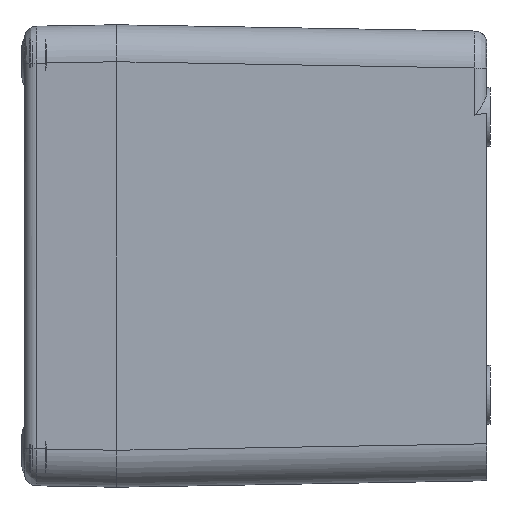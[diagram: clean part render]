
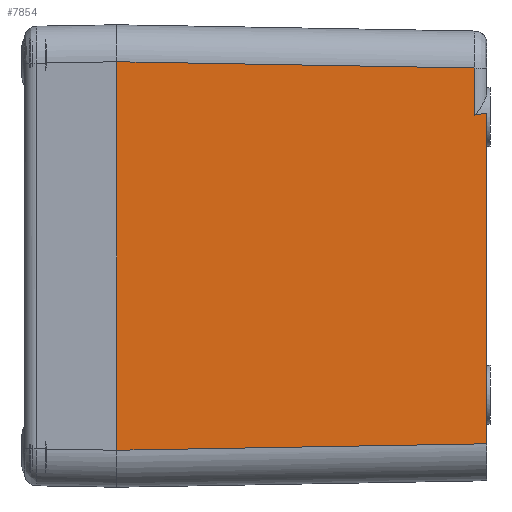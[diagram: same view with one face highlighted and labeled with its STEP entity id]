
A CAD part, left-side view. The second image highlights one B-rep face of the part: STEP entity #7854.
In plain terms, the highlighted planar face has unit normal (-1, -0.018, 0).
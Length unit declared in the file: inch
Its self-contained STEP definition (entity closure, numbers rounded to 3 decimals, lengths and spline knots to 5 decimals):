
#32 = AXIS2_PLACEMENT_3D ( 'NONE', #5261, #5250, #5249 ) ;
#707 = FACE_OUTER_BOUND ( 'NONE', #1563, .T. ) ;
#1563 = EDGE_LOOP ( 'NONE', ( #2058, #2057, #2056, #2055, #2054, #3398, #3413, #3416, #3415 ) ) ;
#2054 = ORIENTED_EDGE ( 'NONE', *, *, #11671, .T. ) ;
#2055 = ORIENTED_EDGE ( 'NONE', *, *, #11637, .T. ) ;
#2056 = ORIENTED_EDGE ( 'NONE', *, *, #11654, .T. ) ;
#2057 = ORIENTED_EDGE ( 'NONE', *, *, #11676, .F. ) ;
#2058 = ORIENTED_EDGE ( 'NONE', *, *, #11677, .F. ) ;
#2771 = DIRECTION ( 'NONE',  ( -0.017, 1., 0.017 ) ) ;
#2773 = CARTESIAN_POINT ( 'NONE',  ( -3.70028, -2.28484, 1.20031 ) ) ;
#2778 = DIRECTION ( 'NONE',  ( 0., 0., 1. ) ) ;
#2779 = CARTESIAN_POINT ( 'NONE',  ( -3.69893, -2.3622, -1.61653 ) ) ;
#2788 = DIRECTION ( 'NONE',  ( 0., 0., 1. ) ) ;
#2789 = CARTESIAN_POINT ( 'NONE',  ( -3.69893, -2.3622, -1.61653 ) ) ;
#2848 = DIRECTION ( 'NONE',  ( 0., 0., -1. ) ) ;
#2849 = CARTESIAN_POINT ( 'NONE',  ( -3.74016, 0., -1.61653 ) ) ;
#3398 = ORIENTED_EDGE ( 'NONE', *, *, #11678, .T. ) ;
#3413 = ORIENTED_EDGE ( 'NONE', *, *, #11649, .T. ) ;
#3415 = ORIENTED_EDGE ( 'NONE', *, *, #11652, .T. ) ;
#3416 = ORIENTED_EDGE ( 'NONE', *, *, #11673, .T. ) ;
#5249 = DIRECTION ( 'NONE',  ( 0.017, -1., 0. ) ) ;
#5250 = DIRECTION ( 'NONE',  ( -1., -0.017, 0. ) ) ;
#5254 = PLANE ( 'NONE',  #32 ) ;
#5261 = CARTESIAN_POINT ( 'NONE',  ( -3.74016, 0., -1.61653 ) ) ;
#7647 = LINE ( 'NONE', #10891, #7648 ) ;
#7648 = VECTOR ( 'NONE', #10889, 39.37008 ) ;
#7649 = LINE ( 'NONE', #10896, #7650 ) ;
#7650 = VECTOR ( 'NONE', #10895, 39.37008 ) ;
#7651 = LINE ( 'NONE', #10883, #7654 ) ;
#7654 = VECTOR ( 'NONE', #10882, 39.37008 ) ;
#7656 = LINE ( 'NONE', #10872, #7660 ) ;
#7660 = VECTOR ( 'NONE', #10871, 39.37008 ) ;
#7854 = ADVANCED_FACE ( 'NONE', ( #707 ), #5254, .T. ) ;
#7923 = CARTESIAN_POINT ( 'NONE',  ( -3.74016, 0., -1.24019 ) ) ;
#7958 = CARTESIAN_POINT ( 'NONE',  ( -3.69893, -2.3622, 0.8595 ) ) ;
#8131 = CARTESIAN_POINT ( 'NONE',  ( -3.69893, -2.3622, -0.91215 ) ) ;
#8451 = VERTEX_POINT ( 'NONE', #7958 ) ;
#8482 = VERTEX_POINT ( 'NONE', #7923 ) ;
#8502 = VERTEX_POINT ( 'NONE', #8131 ) ;
#8645 = VERTEX_POINT ( 'NONE', #10319 ) ;
#8716 = VERTEX_POINT ( 'NONE', #10248 ) ;
#8738 = VERTEX_POINT ( 'NONE', #10226 ) ;
#8759 = VERTEX_POINT ( 'NONE', #10205 ) ;
#8761 = VERTEX_POINT ( 'NONE', #10203 ) ;
#8772 = VERTEX_POINT ( 'NONE', #10192 ) ;
#8800 = LINE ( 'NONE', #2849, #8811 ) ;
#8811 = VECTOR ( 'NONE', #2848, 39.37008 ) ;
#8825 = LINE ( 'NONE', #2789, #8826 ) ;
#8826 = VECTOR ( 'NONE', #2788, 39.37008 ) ;
#8827 = LINE ( 'NONE', #2779, #8831 ) ;
#8831 = VECTOR ( 'NONE', #2778, 39.37008 ) ;
#8837 = LINE ( 'NONE', #2773, #8838 ) ;
#8838 = VECTOR ( 'NONE', #2771, 39.37008 ) ;
#10192 = CARTESIAN_POINT ( 'NONE',  ( -3.69893, -2.3622, 0.91215 ) ) ;
#10203 = CARTESIAN_POINT ( 'NONE',  ( -3.70028, -2.28484, 0.89965 ) ) ;
#10205 = CARTESIAN_POINT ( 'NONE',  ( -3.69893, -2.3622, -1.19896 ) ) ;
#10226 = CARTESIAN_POINT ( 'NONE',  ( -3.69893, -2.3622, -0.8595 ) ) ;
#10248 = CARTESIAN_POINT ( 'NONE',  ( -3.70027, -2.28484, 1.20031 ) ) ;
#10319 = CARTESIAN_POINT ( 'NONE',  ( -3.74016, 0., 1.24019 ) ) ;
#10871 = DIRECTION ( 'NONE',  ( 0., 0., 1. ) ) ;
#10872 = CARTESIAN_POINT ( 'NONE',  ( -3.69893, -2.3622, 0. ) ) ;
#10878 = CARTESIAN_POINT ( 'NONE',  ( -3.69893, -2.3622, 0.91215 ) ) ;
#10880 = CARTESIAN_POINT ( 'NONE',  ( -3.69952, -2.3284, 0.908 ) ) ;
#10881 = CARTESIAN_POINT ( 'NONE',  ( -3.69997, -2.3026, 0.90384 ) ) ;
#10882 = DIRECTION ( 'NONE',  ( 0., 0., -1. ) ) ;
#10883 = CARTESIAN_POINT ( 'NONE',  ( -3.70028, -2.28484, 1.25855 ) ) ;
#10886 = CARTESIAN_POINT ( 'NONE',  ( -3.70028, -2.28484, 0.89965 ) ) ;
#10889 = DIRECTION ( 'NONE',  ( 0., 0., 1. ) ) ;
#10891 = CARTESIAN_POINT ( 'NONE',  ( -3.69893, -2.3622, 0. ) ) ;
#10895 = DIRECTION ( 'NONE',  ( 0.017, -1., 0.017 ) ) ;
#10896 = CARTESIAN_POINT ( 'NONE',  ( -3.74016, 0., -1.24019 ) ) ;
#11637 = EDGE_CURVE ( 'NONE', #8645, #8482, #8800, .T. ) ;
#11649 = EDGE_CURVE ( 'NONE', #8502, #8738, #8825, .T. ) ;
#11652 = EDGE_CURVE ( 'NONE', #8451, #8772, #8827, .T. ) ;
#11654 = EDGE_CURVE ( 'NONE', #8716, #8645, #8837, .T. ) ;
#11671 = EDGE_CURVE ( 'NONE', #8482, #8759, #7649, .T. ) ;
#11673 = EDGE_CURVE ( 'NONE', #8738, #8451, #7647, .T. ) ;
#11676 = EDGE_CURVE ( 'NONE', #8716, #8761, #7651, .T. ) ;
#11677 = EDGE_CURVE ( 'NONE', #8761, #8772, #11802, .T. ) ;
#11678 = EDGE_CURVE ( 'NONE', #8759, #8502, #7656, .T. ) ;
#11802 =( BOUNDED_CURVE ( )  B_SPLINE_CURVE ( 3, ( #10886, #10881, #10880, #10878 ),
 .UNSPECIFIED., .F., .T. ) 
 B_SPLINE_CURVE_WITH_KNOTS ( ( 4, 4 ),
 ( 3.2156, 3.28284 ),
 .UNSPECIFIED. ) 
 CURVE ( )  GEOMETRIC_REPRESENTATION_ITEM ( )  RATIONAL_B_SPLINE_CURVE ( ( 1., 1., 1., 1. ) ) 
 REPRESENTATION_ITEM ( '' )  );
